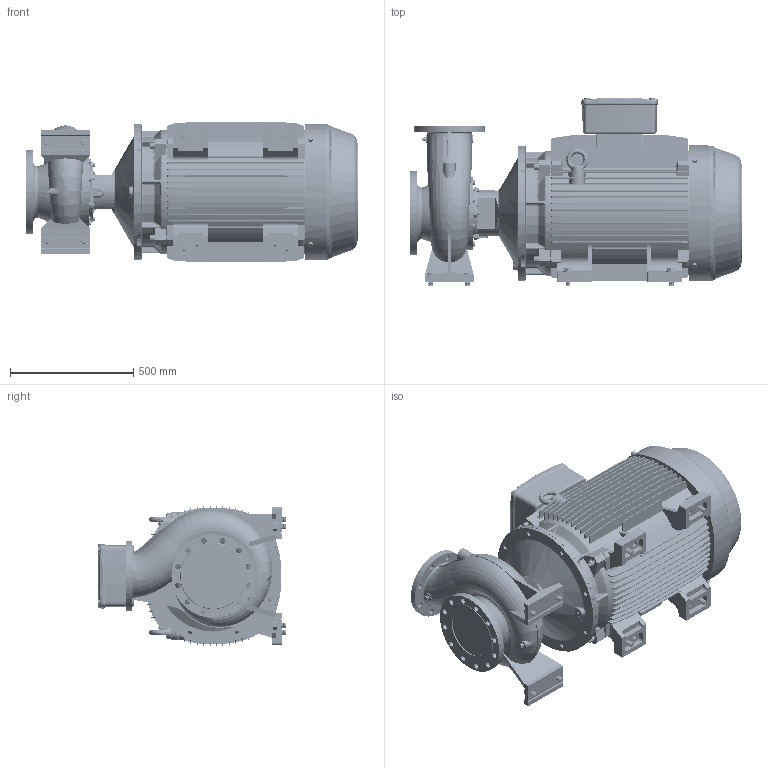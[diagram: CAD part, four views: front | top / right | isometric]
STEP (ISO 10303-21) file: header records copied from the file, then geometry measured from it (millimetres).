
FILE_DESCRIPTION (( 'STEP AP214' ), '1' );
FILE_NAME ('GSD2 150-200_90 & 110_(280SM)_W21.STEP', '2026-07-07T04:27:46', ( '' ), ( '' ), 'SwSTEP 2.0', 'SolidWorks 2024', '' );
FILE_SCHEMA (( 'AUTOMOTIVE_DESIGN' ));
Length unit declared in the file: millimetre
Products named in the file (6): Parametric Flat Washer_M20; 150-200-280S_M_ﾃﾞﾌｫﾙﾄ; 280S_M2P IE3_W21T_B35; Parametric bolt_SFT-A403B; Parametric bolt_SFT-A411B; GSD2  150-200_90 & 110_(280SM)_W21
Assembly tree (18 placements, depth 2):
  GSD2  150-200_90 & 110_(280SM)_W21
    150-200-280S_M_ﾃﾞﾌｫﾙﾄ
    280S_M2P IE3_W21T_B35
    Parametric bolt_SFT-A403B  x4
    Parametric bolt_SFT-A411B  x4
    Parametric Flat Washer_M20  x8
Bounding box: 1348 x 766.6 x 569.62 mm (x, y, z)
Volume: 244162544.3 mm3; surface area: 6512172.1 mm2
Topology: 20 solids, 27 shells, 3939 faces, 10356 edges, 6596 vertices
Faces by surface type: plane 1594, cylinder 1301, cone 510, bspline 260, torus 244, sphere 30
Entity records: 172901 total; most frequent: CARTESIAN_POINT 89776, ORIENTED_EDGE 18096, DIRECTION 16719, EDGE_CURVE 9048, AXIS2_PLACEMENT_3D 6177, VERTEX_POINT 5761, LINE 4365, VECTOR 4365
